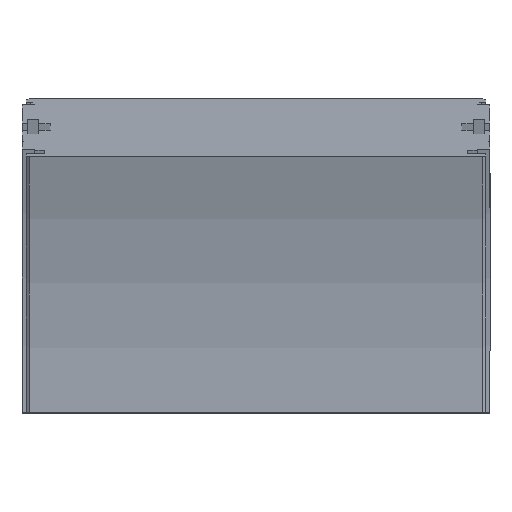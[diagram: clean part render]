
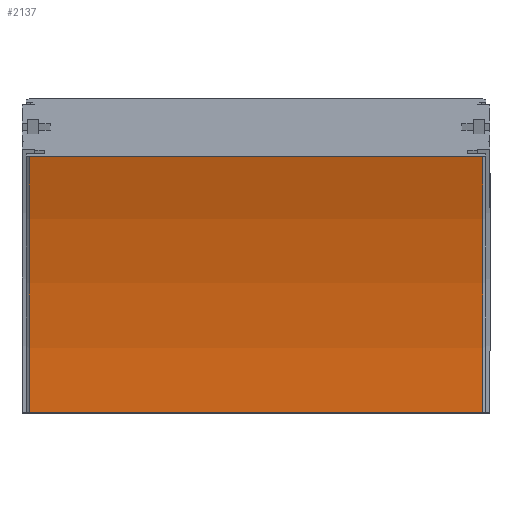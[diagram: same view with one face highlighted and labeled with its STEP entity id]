
A CAD part, top view. The second image highlights one B-rep face of the part: STEP entity #2137.
In plain terms, the highlighted cylindrical face has radius 358 mm (diameter 716 mm), a partial arc.
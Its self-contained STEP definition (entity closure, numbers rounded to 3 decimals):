
#62=CYLINDRICAL_SURFACE('',#2337,358.);
#225=CIRCLE('',#2336,358.);
#226=CIRCLE('',#2338,358.);
#336=FACE_OUTER_BOUND('',#454,.T.);
#454=EDGE_LOOP('',(#1769,#1770,#1771,#1772));
#615=LINE('',#8228,#793);
#616=LINE('',#8230,#794);
#793=VECTOR('',#2838,10.);
#794=VECTOR('',#2839,10.);
#1005=VERTEX_POINT('',#8221);
#1006=VERTEX_POINT('',#8223);
#1007=VERTEX_POINT('',#8227);
#1008=VERTEX_POINT('',#8229);
#1304=EDGE_CURVE('',#1005,#1006,#225,.T.);
#1305=EDGE_CURVE('',#1007,#1005,#615,.T.);
#1306=EDGE_CURVE('',#1008,#1006,#616,.T.);
#1307=EDGE_CURVE('',#1007,#1008,#226,.T.);
#1769=ORIENTED_EDGE('',*,*,#1305,.T.);
#1770=ORIENTED_EDGE('',*,*,#1304,.T.);
#1771=ORIENTED_EDGE('',*,*,#1306,.F.);
#1772=ORIENTED_EDGE('',*,*,#1307,.F.);
#2137=ADVANCED_FACE('',(#336),#62,.F.);
#2336=AXIS2_PLACEMENT_3D('',#8225,#2834,#2835);
#2337=AXIS2_PLACEMENT_3D('',#8226,#2836,#2837);
#2338=AXIS2_PLACEMENT_3D('',#8231,#2840,#2841);
#2834=DIRECTION('center_axis',(1.,0.,0.));
#2835=DIRECTION('ref_axis',(0.,0.,-1.));
#2836=DIRECTION('center_axis',(1.,0.,0.));
#2837=DIRECTION('ref_axis',(0.,0.,-1.));
#2838=DIRECTION('',(1.,0.,0.));
#2839=DIRECTION('',(1.,0.,0.));
#2840=DIRECTION('center_axis',(1.,0.,0.));
#2841=DIRECTION('ref_axis',(0.,0.,
-1.));
#8221=CARTESIAN_POINT('',(108.5,0.,42.));
#8223=CARTESIAN_POINT('',(108.5,122.443,63.59));
#8225=CARTESIAN_POINT('Origin',(108.5,0.,
400.));
#8226=CARTESIAN_POINT('Origin',(-54.25,0.,400.));
#8227=CARTESIAN_POINT('',(-108.5,0.,42.));
#8228=CARTESIAN_POINT('',(-108.5,0.,42.));
#8229=CARTESIAN_POINT('',(-108.5,122.443,63.59));
#8230=CARTESIAN_POINT('',(-108.5,122.443,63.59));
#8231=CARTESIAN_POINT('Origin',(-108.5,0.,
400.));
